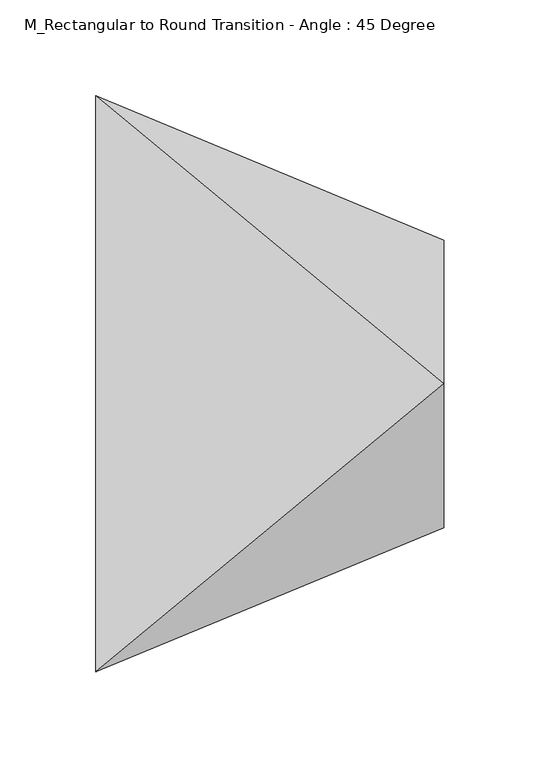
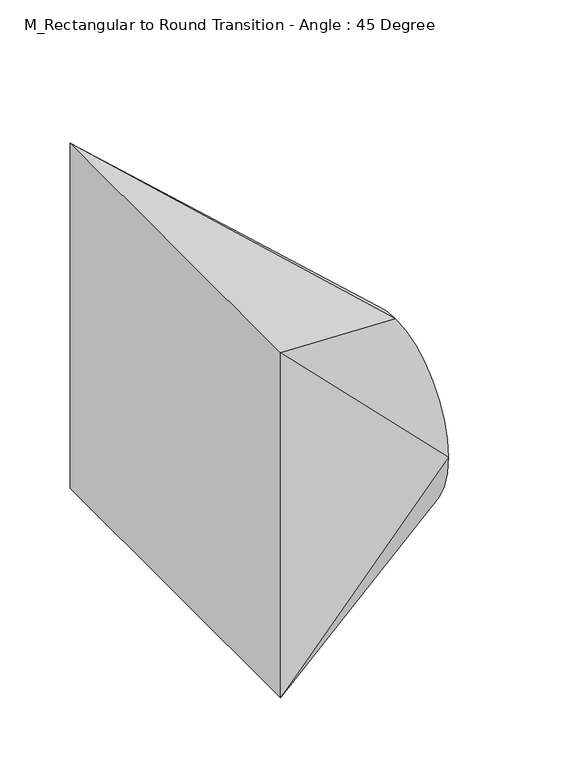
"""IFC4 building model written with IfcOpenShell, lengths in millimetres: duct fitting geometry, M_Rectangular to Round Transition - Angle : 45 Degree."""

from ifc_helpers import new_model, si_unit, frame, origin, place, context, project, spatial, circle_curve, source, transform, mapped, element, save
from ifc_brep_helpers import plane_surface, spline_surface, advanced_brep


def m_rectangular_to_round_transition_angle_45_degree_c6905c64(model_context):
    return source(origin(), model_context, "Body", "AdvancedBrep", [
        advanced_brep(
        [(0.0, -150.0, -150.0), (0.0, -150.0, 150.0), (0.0, 150.0, 150.0), (0.0, 150.0, -150.0), (181.0660172, -75.0, -50.0046165), (181.0660172, 0.0, -125.0046165), (181.0660172, 75.0, -50.0046165), (181.0660172, 0.0, 24.9953835)],
        [
            (0, 1),
            (1, 2),
            (2, 3),
            (3, 0),
            (4, 5, circle_curve(frame((181.0660172, 0.0, -50.0046165), z_axis=(1.0, 0.0, 0.0), x_axis=(0.0, -1.0, 0.0)), 75.0)),
            (5, 6, circle_curve(frame((181.0660172, 0.0, -50.0046165), z_axis=(1.0, 0.0, 0.0), x_axis=(0.0, -1.0, 0.0)), 75.0)),
            (6, 7, circle_curve(frame((181.0660172, 0.0, -50.0046165), z_axis=(1.0, 0.0, 0.0), x_axis=(0.0, -1.0, 0.0)), 75.0)),
            (7, 4, circle_curve(frame((181.0660172, 0.0, -50.0046165), z_axis=(1.0, 0.0, 0.0), x_axis=(0.0, -1.0, 0.0)), 75.0)),
            (0, 4),
            (4, 1),
            (7, 1),
            (7, 2),
            (6, 2),
            (6, 3),
            (5, 3),
            (5, 0),
        ],
        [
            plane_surface(frame((0.0, 0.0, 0.0), z_axis=(-1.0, 0.0, 0.0), x_axis=(0.0, 1.0, 0.0))),
            plane_surface(frame((181.0660172, 0.0, -50.0046165), z_axis=(1.0, 0.0, 0.0), x_axis=(0.0, 1.0, 0.0))),
            plane_surface(frame((181.0660172, -75.0, -50.0046165), z_axis=(0.38268343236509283, -0.9238795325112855, 0.0), x_axis=(0.0, 0.0, 1.0))),
            spline_surface(2, 1, [[(181.0660172, -75.0, -50.0046165), (0.0, -150.0, 150.0)], [(181.0660172, -75.0, 24.995383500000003), (0.0, -150.0, 150.0)], [(181.0660172, 0.0, 24.9953835), (0.0, -150.0, 150.0)]], [3, 3], [2, 2], [0.0, 1.0], [0.0, 1.0], weights=[[1.0, 1.0], [0.7071067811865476, 0.7071067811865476], [1.0, 1.0]]),
            plane_surface(frame((181.0660172, 0.0, 24.9953835), z_axis=(0.5681379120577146, 0.0, 0.8229333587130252), x_axis=(0.0, 1.0, 0.0))),
            spline_surface(2, 1, [[(181.0660172, 0.0, 24.9953835), (0.0, 150.0, 150.0)], [(181.0660172, 75.0, 24.995383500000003), (0.0, 150.0, 150.0)], [(181.0660172, 75.0, -50.0046165), (0.0, 150.0, 150.0)]], [3, 3], [2, 2], [0.0, 1.0], [0.0, 1.0], weights=[[1.0, 1.0], [0.7071067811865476, 0.7071067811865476], [1.0, 1.0]]),
            plane_surface(frame((181.0660172, 75.0, -50.0046165), z_axis=(0.38268343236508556, 0.9238795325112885, 0.0), x_axis=(0.0, 0.0, -1.0))),
            spline_surface(2, 1, [[(181.0660172, 75.0, -50.0046165), (0.0, 150.0, -150.0)], [(181.0660172, 75.0, -125.0046165), (0.0, 150.0, -150.0)], [(181.0660172, 0.0, -125.0046165), (0.0, 150.0, -150.0)]], [3, 3], [2, 2], [0.0, 1.0], [0.0, 1.0], weights=[[1.0, 1.0], [0.7071067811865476, 0.7071067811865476], [1.0, 1.0]]),
            plane_surface(frame((181.0660172, 0.0, -125.0046165), z_axis=(0.1367488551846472, 0.0, -0.990605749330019), x_axis=(0.0, -1.0, 0.0))),
            spline_surface(2, 1, [[(181.0660172, 0.0, -125.0046165), (0.0, -150.0, -150.0)], [(181.0660172, -75.0, -125.0046165), (0.0, -150.0, -150.0)], [(181.0660172, -75.0, -50.0046165), (0.0, -150.0, -150.0)]], [3, 3], [2, 2], [0.0, 1.0], [0.0, 1.0], weights=[[1.0, 1.0], [0.7071067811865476, 0.7071067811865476], [1.0, 1.0]]),
        ],
        [
            (0, [[1, 2, 3, 4]]),
            (1, [[5, 6, 7, 8]]),
            (2, [[-1, 9, 10]]),
            (3, [[-8, 11, -10]]),
            (4, [[-2, -11, 12]]),
            (5, [[-7, 13, -12]]),
            (6, [[-3, -13, 14]]),
            (7, [[-6, 15, -14]]),
            (8, [[-4, -15, 16]]),
            (9, [[-5, -9, -16]]),
        ],
    ),
        advanced_brep(
        [(0.0, -150.0, -150.0), (0.0, -150.0, 150.0), (0.0, 150.0, 150.0), (0.0, 150.0, -150.0), (181.0660172, -75.0, -50.0046165), (181.0660172, 0.0, -125.0046165), (181.0660172, 75.0, -50.0046165), (181.0660172, 0.0, 24.9953835)],
        [
            (0, 1),
            (1, 2),
            (2, 3),
            (3, 0),
            (4, 5, circle_curve(frame((181.0660172, 0.0, -50.0046165), z_axis=(1.0, 0.0, 0.0), x_axis=(0.0, -1.0, 0.0)), 75.0)),
            (5, 6, circle_curve(frame((181.0660172, 0.0, -50.0046165), z_axis=(1.0, 0.0, 0.0), x_axis=(0.0, -1.0, 0.0)), 75.0)),
            (6, 7, circle_curve(frame((181.0660172, 0.0, -50.0046165), z_axis=(1.0, 0.0, 0.0), x_axis=(0.0, -1.0, 0.0)), 75.0)),
            (7, 4, circle_curve(frame((181.0660172, 0.0, -50.0046165), z_axis=(1.0, 0.0, 0.0), x_axis=(0.0, -1.0, 0.0)), 75.0)),
            (0, 4),
            (4, 1),
            (7, 1),
            (7, 2),
            (6, 2),
            (6, 3),
            (5, 3),
            (5, 0),
        ],
        [
            plane_surface(frame((0.0, 0.0, 0.0), z_axis=(-1.0, 0.0, 0.0), x_axis=(0.0, 1.0, 0.0))),
            plane_surface(frame((181.0660172, 0.0, -50.0046165), z_axis=(1.0, 0.0, 0.0), x_axis=(0.0, 1.0, 0.0))),
            plane_surface(frame((181.0660172, -75.0, -50.0046165), z_axis=(0.3826834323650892, -0.923879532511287, 0.0), x_axis=(0.0, 0.0, 1.0))),
            spline_surface(2, 1, [[(181.0660172, -75.0, -50.0046165), (0.0, -150.0, 150.0)], [(181.0660172, -75.0, 24.995383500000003), (0.0, -150.0, 150.0)], [(181.0660172, 0.0, 24.9953835), (0.0, -150.0, 150.0)]], [3, 3], [2, 2], [0.0, 1.0], [0.0, 1.0], weights=[[1.0, 1.0], [0.7071067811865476, 0.7071067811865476], [1.0, 1.0]]),
            plane_surface(frame((181.0660172, 0.0, 24.9953835), z_axis=(0.5681379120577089, 0.0, 0.8229333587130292), x_axis=(0.0, 1.0, 0.0))),
            spline_surface(2, 1, [[(181.0660172, 0.0, 24.9953835), (0.0, 150.0, 150.0)], [(181.0660172, 75.0, 24.995383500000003), (0.0, 150.0, 150.0)], [(181.0660172, 75.0, -50.0046165), (0.0, 150.0, 150.0)]], [3, 3], [2, 2], [0.0, 1.0], [0.0, 1.0], weights=[[1.0, 1.0], [0.7071067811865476, 0.7071067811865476], [1.0, 1.0]]),
            plane_surface(frame((181.0660172, 75.0, -50.0046165), z_axis=(0.3826834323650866, 0.9238795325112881, 0.0), x_axis=(0.0, 0.0, -1.0))),
            spline_surface(2, 1, [[(181.0660172, 75.0, -50.0046165), (0.0, 150.0, -150.0)], [(181.0660172, 75.0, -125.0046165), (0.0, 150.0, -150.0)], [(181.0660172, 0.0, -125.0046165), (0.0, 150.0, -150.0)]], [3, 3], [2, 2], [0.0, 1.0], [0.0, 1.0], weights=[[1.0, 1.0], [0.7071067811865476, 0.7071067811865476], [1.0, 1.0]]),
            plane_surface(frame((181.0660172, 0.0, -125.0046165), z_axis=(0.13674885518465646, 0.0, -0.9906057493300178), x_axis=(0.0, -1.0, 0.0))),
            spline_surface(2, 1, [[(181.0660172, 0.0, -125.0046165), (0.0, -150.0, -150.0)], [(181.0660172, -75.0, -125.0046165), (0.0, -150.0, -150.0)], [(181.0660172, -75.0, -50.0046165), (0.0, -150.0, -150.0)]], [3, 3], [2, 2], [0.0, 1.0], [0.0, 1.0], weights=[[1.0, 1.0], [0.7071067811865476, 0.7071067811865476], [1.0, 1.0]]),
        ],
        [
            (0, [[1, 2, 3, 4]]),
            (1, [[5, 6, 7, 8]]),
            (2, [[-1, 9, 10]]),
            (3, [[-8, 11, -10]]),
            (4, [[-2, -11, 12]]),
            (5, [[-7, 13, -12]]),
            (6, [[-3, -13, 14]]),
            (7, [[-6, 15, -14]]),
            (8, [[-4, -15, 16]]),
            (9, [[-5, -9, -16]]),
        ],
    ),
        advanced_brep(
        [(181.0660172, 0.0, 24.9953835), (181.0660172, -75.0, -50.0046165), (181.0660172, 0.0, -125.0046165), (181.0660172, 75.0, -50.0046165), (0.0, -150.0, 150.0), (0.0, 150.0, 150.0), (0.0, 150.0, -150.0), (0.0, -150.0, -150.0)],
        [
            (0, 1, circle_curve(frame((181.0660172, 0.0, -50.0046165), z_axis=(1.0, 0.0, 0.0), x_axis=(0.0, 1.0, 0.0)), 75.0)),
            (1, 2, circle_curve(frame((181.0660172, 0.0, -50.0046165), z_axis=(1.0, 0.0, 0.0), x_axis=(0.0, 1.0, 0.0)), 75.0)),
            (2, 3, circle_curve(frame((181.0660172, 0.0, -50.0046165), z_axis=(1.0, 0.0, 0.0), x_axis=(0.0, 1.0, 0.0)), 75.0)),
            (3, 0, circle_curve(frame((181.0660172, 0.0, -50.0046165), z_axis=(1.0, 0.0, 0.0), x_axis=(0.0, 1.0, 0.0)), 75.0)),
            (4, 5),
            (5, 6),
            (6, 7),
            (7, 4),
            (0, 4),
            (4, 1),
            (7, 1),
            (7, 2),
            (6, 2),
            (6, 3),
            (5, 3),
            (5, 0),
        ],
        [
            plane_surface(frame((181.0660172, 0.0, -50.0046165), z_axis=(1.0, 0.0, 0.0), x_axis=(0.0, 0.0, -1.0))),
            plane_surface(frame((0.0, 0.0, 0.0), z_axis=(-1.0, 0.0, 0.0), x_axis=(0.0, 0.0, -1.0))),
            spline_surface(2, 1, [[(0.0, -150.0, 150.0), (181.0660172, 0.0, 24.9953835)], [(0.0, -150.0, 150.0), (181.0660172, -75.0, 24.995383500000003)], [(0.0, -150.0, 150.0), (181.0660172, -75.0, -50.0046165)]], [3, 3], [2, 2], [0.0, 1.0], [0.0, 1.0], weights=[[1.0, 1.0], [0.7071067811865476, 0.7071067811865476], [1.0, 1.0]]),
            plane_surface(frame((0.0, -150.0, 0.0), z_axis=(0.38268343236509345, -0.9238795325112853, 0.0), x_axis=(0.0, 0.0, -1.0))),
            spline_surface(2, 1, [[(0.0, -150.0, -150.0), (181.0660172, -75.0, -50.0046165)], [(0.0, -150.0, -150.0), (181.0660172, -75.0, -125.0046165)], [(0.0, -150.0, -150.0), (181.0660172, 0.0, -125.0046165)]], [3, 3], [2, 2], [0.0, 1.0], [0.0, 1.0], weights=[[1.0, 1.0], [0.7071067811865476, 0.7071067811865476], [1.0, 1.0]]),
            plane_surface(frame((0.0, 0.0, -150.0), z_axis=(0.1367488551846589, 0.0, -0.9906057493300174), x_axis=(0.0, 1.0, 0.0))),
            spline_surface(2, 1, [[(0.0, 150.0, -150.0), (181.0660172, 0.0, -125.0046165)], [(0.0, 150.0, -150.0), (181.0660172, 75.0, -125.0046165)], [(0.0, 150.0, -150.0), (181.0660172, 75.0, -50.0046165)]], [3, 3], [2, 2], [0.0, 1.0], [0.0, 1.0], weights=[[1.0, 1.0], [0.7071067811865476, 0.7071067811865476], [1.0, 1.0]]),
            plane_surface(frame((0.0, 150.0, 0.0), z_axis=(0.3826834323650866, 0.9238795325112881, 0.0), x_axis=(0.0, 0.0, 1.0))),
            spline_surface(2, 1, [[(0.0, 150.0, 150.0), (181.0660172, 75.0, -50.0046165)], [(0.0, 150.0, 150.0), (181.0660172, 75.0, 24.995383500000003)], [(0.0, 150.0, 150.0), (181.0660172, 0.0, 24.9953835)]], [3, 3], [2, 2], [0.0, 1.0], [0.0, 1.0], weights=[[1.0, 1.0], [0.7071067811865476, 0.7071067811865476], [1.0, 1.0]]),
            plane_surface(frame((0.0, 0.0, 150.0), z_axis=(0.5681379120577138, 0.0, 0.8229333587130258), x_axis=(0.0, -1.0, 0.0))),
        ],
        [
            (0, [[1, 2, 3, 4]]),
            (1, [[5, 6, 7, 8]]),
            (2, [[-1, 9, 10]]),
            (3, [[-8, 11, -10]]),
            (4, [[-2, -11, 12]]),
            (5, [[-7, 13, -12]]),
            (6, [[-3, -13, 14]]),
            (7, [[-6, 15, -14]]),
            (8, [[-4, -15, 16]]),
            (9, [[-5, -9, -16]]),
        ],
    ),
    ])


if __name__ == "__main__":
    model = new_model("IFC4")
    model_context = context("Model", 3, world=origin())
    ifc_project = project(units=[si_unit("LENGTHUNIT", "METRE", prefix="MILLI")], contexts=[model_context])
    site = spatial("IfcSite", under=ifc_project)
    building = spatial("IfcBuilding", under=site)
    placement = place(None, origin())
    m_rectangular_to_round_transition_angle_45_degree_shape = m_rectangular_to_round_transition_angle_45_degree_c6905c64(model_context)
    element("IfcDuctFitting", 1, ObjectType="M_Rectangular to Round Transition - Angle : 45 Degree", at=placement, inside=building, context=model_context, shape_type="MappedRepresentation", body=[
        mapped(m_rectangular_to_round_transition_angle_45_degree_shape, transform((0.0, 0.0, 0.0), x_axis=(1.0, 0.0, 0.0), y_axis=(0.0, 1.0, 0.0), z_axis=(0.0, 0.0, 1.0))),
    ])
    save(model, "model.ifc")
